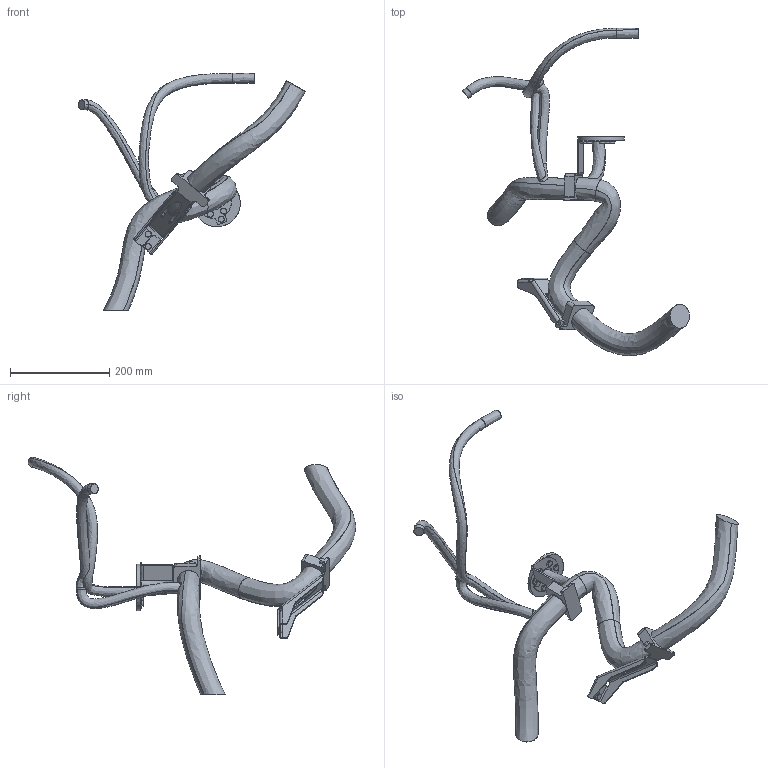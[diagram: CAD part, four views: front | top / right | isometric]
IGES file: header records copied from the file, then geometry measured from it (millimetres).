
Start section: SolidWorks IGES file using analytic representation for surfaces
Global section: file name: C:\Users\SEAMSTO1\OneDrive - ABB\PT\Macro\IGES\IRB6760-MH3_200kg-320_OC_00_IGES_J\IRB6760_All_OC_00_LINK01m_CABLE.igs; native system: SolidWorks 2024; preprocessor: SolidWorks 2024; author: SEAMSTO1; date: 250930.151523; units: millimetre
Bounding box: 457.97 x 660.43 x 478.84 mm (x, y, z)
Surface area: 279210.3 mm2 (no closed solid volume)
Topology: 0 solids, 0 shells, 275 faces, 4511 edges, 4511 vertices
Faces by surface type: bspline 169, revolution 106
